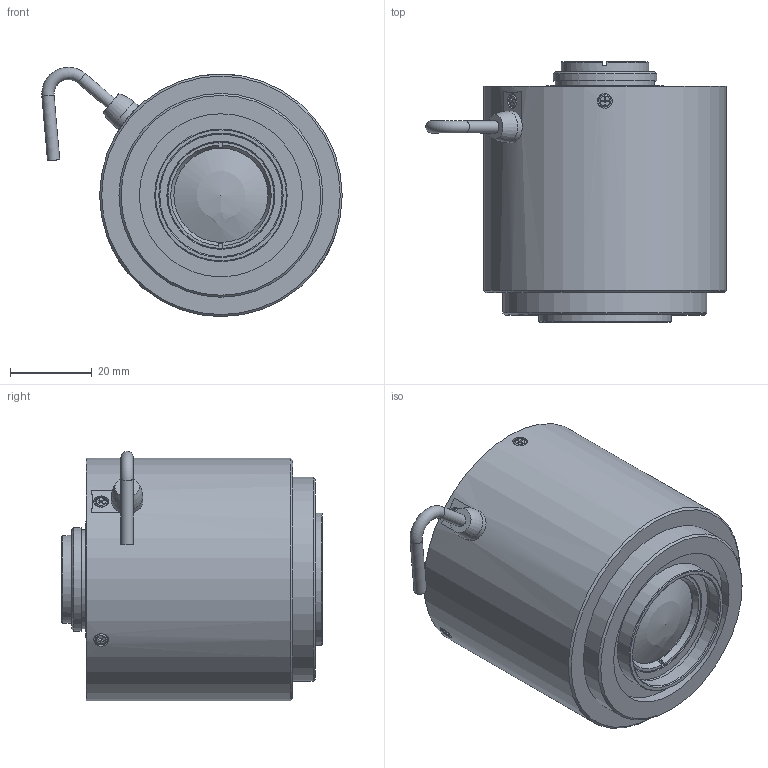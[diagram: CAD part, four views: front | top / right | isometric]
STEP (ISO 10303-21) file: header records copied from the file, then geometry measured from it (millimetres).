
FILE_DESCRIPTION(/* description */ ('Unknown'),/* implementation_level */ '2;1');
FILE_NAME(/* name */ 'Reference 3D-drawing of DL5028UC-MPY (Confidential_Tentative)_211014',/* time_stamp */ '2021-10-14T10:27:56+09:00',/* author */ ('Unknown'),/* organization */ ('Unknown'),/* preprocessor_version */ 'ST-DEVELOPER v16.7',/* originating_system */ 'DEX',/* authorisation */ $);
FILE_SCHEMA (('AUTOMOTIVE_DESIGN {1 0 10303 214 3 1 1}'));
Length unit declared in the file: millimetre
Products named in the file (1): DL5028UC-MPY
Bounding box: 73.68 x 63.92 x 61.13 mm (x, y, z)
Volume: 151022.5 mm3; surface area: 18399.6 mm2
Topology: 1 solids, 6 shells, 295 faces, 716 edges, 471 vertices
Faces by surface type: plane 206, cylinder 53, cone 24, torus 10, sphere 2
Full cylindrical faces by diameter (mm): 2 x4, 2.2 x4, 3 x10, 3.6 x4, 3.8 x4, 7.699 x1, 14.8 x1, 21.5 x1, 23.1 x1, 24.3 x1, 25.4 x1, 29 x1, 30 x1, 30.5 x1, 32.5 x1, 40 x1, 50 x1, 59.5 x1
Entity records: 10266 total; most frequent: CARTESIAN_POINT 1510, DIRECTION 1349, ORIENTED_EDGE 1266, EDGE_CURVE 633, LINE 477, VECTOR 477, VERTEX_POINT 455, AXIS2_PLACEMENT_3D 436
